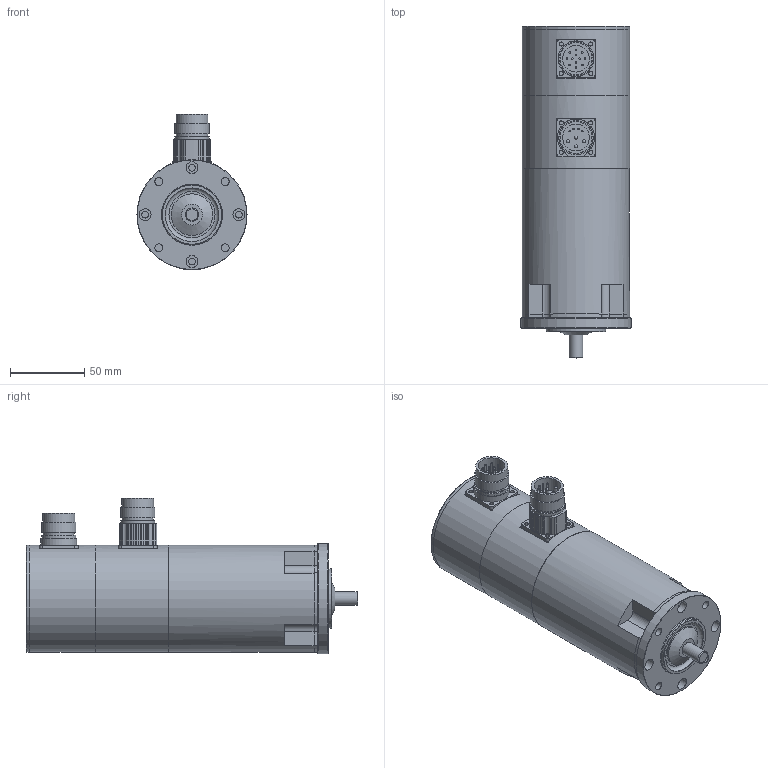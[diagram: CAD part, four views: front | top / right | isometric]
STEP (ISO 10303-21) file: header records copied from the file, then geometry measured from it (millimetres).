
FILE_DESCRIPTION(/* description */ (''),/* implementation_level */ '2;1');
FILE_NAME(/* name */ 'ksy_168e_md_r4',/* time_stamp */ '2007-03-16T12:50:40+01:00',/* author */ (''),/* organization */ (''),/* preprocessor_version */ 'ST-DEVELOPER v8',/* originating_system */ 'UNIGRAPHICS SOLUTIONS - UNIGRAPHICS 18.0',/* authorisation */ '');
FILE_SCHEMA (('AUTOMOTIVE_DESIGN { 1 2 10303 214 0 1 1 1 }'));
Length unit declared in the file: millimetre
Products named in the file (11): 014261_0; 014260_0; 06330401_0; DIN3760_org_A10x24x7_0; Rotor_SY 16.. E_0; 064269_0; 064308_0; 111024_0; Gehaeuse_SY 16.. E_0; 111014_0; KSY164_E-MD-R4_0
Assembly tree (10 placements, depth 2):
  KSY164_E-MD-R4_0
    111014_0
    Gehaeuse_SY 16.. E_0
    111024_0
    064308_0
    064269_0
    Rotor_SY 16.. E_0
    DIN3760_org_A10x24x7_0
    06330401_0
    014260_0
    014261_0
Bounding box: 74 x 223 x 104.5 mm (x, y, z)
Volume: 680272.6 mm3; surface area: 121385.9 mm2
Topology: 10 solids, 10 shells, 310 faces, 771 edges, 495 vertices
Faces by surface type: cylinder 164, plane 96, cone 20, sphere 20, torus 10
Full cylindrical faces by diameter (mm): 1 x16, 2 x4, 2.7 x8, 3.5 x4, 4.5 x4, 5.5 x4, 6 x4, 8 x4, 8.52 x1, 8.95 x1, 9 x1, 10 x2, 10.3 x1, 18 x2, 20 x5, 21 x3, 21.5 x2, 23 x4, 24 x3, 26 x1, 28 x1, 36 x1, 40 x1, 44 x1, 49.3 x1, 51 x3, 51.3 x1, 53 x2, 72 x4, 74 x1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
Entity records: 8315 total; most frequent: DIRECTION 1554, CARTESIAN_POINT 1288, ORIENTED_EDGE 1078, AXIS2_PLACEMENT_3D 694, EDGE_CURVE 539, EDGE_LOOP 532, VERTEX_POINT 428, CIRCLE 373
